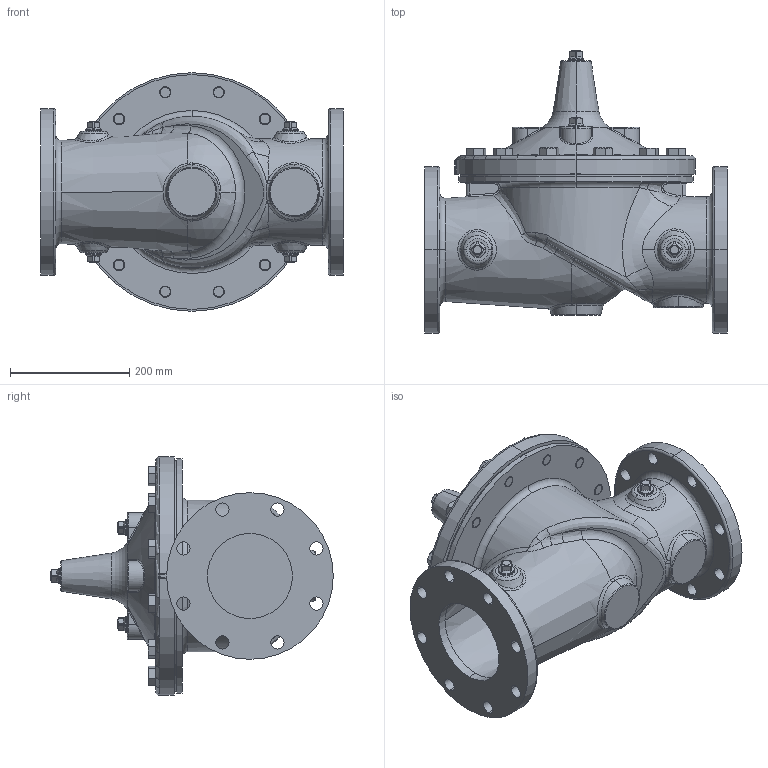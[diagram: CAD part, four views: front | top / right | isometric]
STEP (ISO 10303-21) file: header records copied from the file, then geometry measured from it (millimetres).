
FILE_DESCRIPTION (( 'STEP AP203' ), '1' );
FILE_NAME ('6in Hytrol 150A.STEP', '2016-06-07T21:57:29', ( '' ), ( '' ), 'SwSTEP 2.0', 'SolidWorks 2016', '' );
FILE_SCHEMA (( 'CONFIG_CONTROL_DESIGN' ));
Length unit declared in the file: inch
Products named in the file (5): 6in Cover (BLUE) with 2 or 4 Bosses Drld_2 BOSSES TAPPED; .750 NPT PIPE PLUG (67660)_316 SST; 6in Hytrol 150A; 6in Body HyGl150A STD (BLUE)_Default 150 FLAT FACE; Bolt .750-10 UNC  (67609)_1.75   67609-04A
Assembly tree (21 placements, depth 2):
  6in Hytrol 150A
    6in Body HyGl150A STD (BLUE)_Default 150 FLAT FACE
    Bolt .750-10 UNC  (67609)_1.75   67609-04A  x12
    6in Cover (BLUE) with 2 or 4 Bosses Drld_2 BOSSES TAPPED
    .750 NPT PIPE PLUG (67660)_316 SST  x7
Bounding box: 508 x 473.71 x 400.05 mm (x, y, z)
Volume: 20709556.3 mm3; surface area: 1318537.3 mm2
Topology: 21 solids, 21 shells, 1346 faces, 2985 edges, 1673 vertices
Faces by surface type: cone 456, cylinder 236, plane 226, bspline 217, torus 139, sphere 72
Entity records: 26293 total; most frequent: CARTESIAN_POINT 13989, ORIENTED_EDGE 2394, DIRECTION 2368, EDGE_CURVE 1197, AXIS2_PLACEMENT_3D 1041, VERTEX_POINT 713, CIRCLE 631, EDGE_LOOP 610
